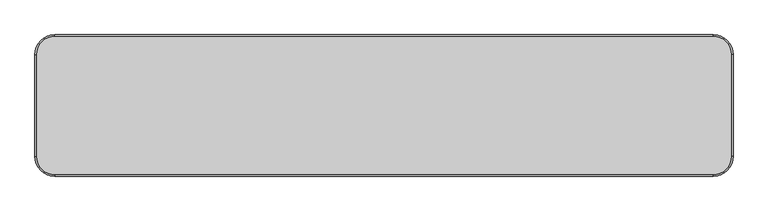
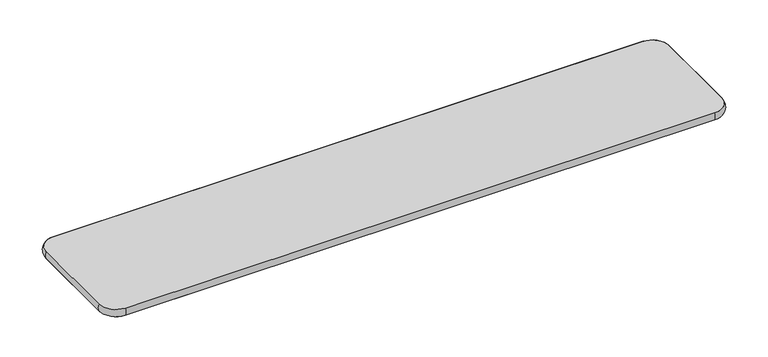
"""IFC4 building model written with IfcOpenShell, lengths in millimetres: furniture geometry, Banco para refeitório : Banco para refeitório 150x30cm cód 40470.2."""

from ifc_helpers import new_model, si_unit, point, frame, frame_2d, origin, place, context, project, spatial, polyline, circle_curve, ellipse_curve, trimmed, segment, composite_curve, outline, extrude, source, transform, mapped, element, save
from ifc_brep_helpers import plane_surface, cylinder_surface, revolved_surface, advanced_brep


def furniture_198ba263(model_context):
    return source(origin(), model_context, "Body", "SolidModel", [
        advanced_brep(
        [(750.0, -110.0, 310.0), (710.0, -150.0, 310.0), (710.0, -150.0, 292.0), (750.0, -110.0, 292.0), (750.0, 110.0, 292.0), (750.0, 110.0, 310.0), (710.0, 150.0, 310.0), (710.0, 150.0, 292.0), (-710.0, 150.0, 292.0), (-710.0, 150.0, 310.0), (-750.0, 110.0, 310.0), (-750.0, 110.0, 292.0), (-750.0, -110.0, 292.0), (-750.0, -110.0, 310.0), (-710.0, -150.0, 310.0), (-710.0, -150.0, 292.0)],
        [
            (0, 1, circle_curve(frame((710.0, -110.0, 310.0), z_axis=(0.0, 0.0, -1.0), x_axis=(0.0, -1.0, 0.0)), 40.0)),
            (1, 2, circle_curve(frame((710.0, -136.6032084, 301.0), z_axis=(1.0, 0.0, 0.0), x_axis=(0.0, 1.0, 0.0)), 16.1392077)),
            (2, 3, circle_curve(frame((710.0, -110.0, 292.0), z_axis=(0.0, 0.0, 1.0), x_axis=(0.0, -1.0, 0.0)), 40.0)),
            (3, 0, circle_curve(frame((736.6032084, -110.0, 301.0), z_axis=(0.0, -1.0, 0.0), x_axis=(-1.0, 0.0, 0.0)), 16.1392077)),
            (2, 1),
            (0, 3),
            (3, 4),
            (4, 5, circle_curve(frame((736.6032084, 110.0, 301.0), z_axis=(0.0, -1.0, 0.0), x_axis=(-1.0, 0.0, 0.0)), 16.1392077)),
            (5, 0),
            (5, 4),
            (6, 5, circle_curve(frame((710.0, 110.0, 310.0), z_axis=(0.0, 0.0, -1.0), x_axis=(1.0, 0.0, 0.0)), 40.0)),
            (4, 7, circle_curve(frame((710.0, 110.0, 292.0), z_axis=(0.0, 0.0, 1.0), x_axis=(1.0, 0.0, 0.0)), 40.0)),
            (7, 6, circle_curve(frame((710.0, 136.6032084, 301.0), z_axis=(1.0, 0.0, 0.0), x_axis=(0.0, -1.0, 0.0)), 16.1392077)),
            (6, 7),
            (7, 8),
            (8, 9, circle_curve(frame((-710.0, 136.6032084, 301.0), z_axis=(1.0, 0.0, 0.0), x_axis=(0.0, -1.0, 0.0)), 16.1392077)),
            (9, 6),
            (9, 8),
            (10, 9, circle_curve(frame((-710.0, 110.0, 310.0), z_axis=(0.0, 0.0, -1.0), x_axis=(0.0, 1.0, 0.0)), 40.0)),
            (8, 11, circle_curve(frame((-710.0, 110.0, 292.0), z_axis=(0.0, 0.0, 1.0), x_axis=(0.0, 1.0, 0.0)), 40.0)),
            (11, 10, circle_curve(frame((-736.6032084, 110.0, 301.0), z_axis=(0.0, 1.0, 0.0), x_axis=(1.0, 0.0, 0.0)), 16.1392077)),
            (10, 11),
            (11, 12),
            (12, 13, circle_curve(frame((-736.6032084, -110.0, 301.0), z_axis=(0.0, 1.0, 0.0), x_axis=(1.0, 0.0, 0.0)), 16.1392077)),
            (13, 10),
            (13, 12),
            (14, 13, circle_curve(frame((-710.0, -110.0, 310.0), z_axis=(0.0, 0.0, -1.0), x_axis=(-1.0, 0.0, 0.0)), 40.0)),
            (12, 15, circle_curve(frame((-710.0, -110.0, 292.0), z_axis=(0.0, 0.0, 1.0), x_axis=(-1.0, 0.0, 0.0)), 40.0)),
            (15, 14, circle_curve(frame((-710.0, -136.6032084, 301.0), z_axis=(-1.0, 0.0, 0.0), x_axis=(0.0, 1.0, 0.0)), 16.1392077)),
            (14, 15),
            (15, 2),
            (1, 14),
        ],
        [
            revolved_surface(trimmed(ellipse_curve(frame((710.0, -136.6032084, 301.0), z_axis=(-1.0, 0.0, 0.0), x_axis=(0.0, 1.0, 0.0)), 16.1392077, 16.1392077), [point((710.0, -150.0, 292.0))], [point((710.0, -150.0, 310.0))], True, "CARTESIAN"), (710.0, -110.0, 310.0), (0.0, 0.0, 1.0)),
            revolved_surface(polyline([(710.0, -150.0, 310.0), (710.0, -150.0, 292.0)]), (710.0, -110.0, 310.0), (0.0, 0.0, 1.0)),
            cylinder_surface(frame((736.6032084, -110.0, 301.0), z_axis=(0.0, -1.0, 0.0), x_axis=(-1.0, 0.0, 0.0)), 16.1392077),
            plane_surface(frame((750.0, -110.0, 310.0), z_axis=(-1.0, 0.0, 0.0), x_axis=(0.0, 1.0, 0.0))),
            revolved_surface(trimmed(ellipse_curve(frame((736.6032084, 110.0, 301.0), z_axis=(0.0, -1.0, 0.0), x_axis=(-1.0, 0.0, 0.0)), 16.1392077, 16.1392077), [point((750.0, 110.0, 292.0))], [point((750.0, 110.0, 310.0))], True, "CARTESIAN"), (710.0, 110.0, 310.0), (0.0, 0.0, 1.0)),
            revolved_surface(polyline([(750.0, 110.0, 310.0), (750.0, 110.0, 292.0)]), (710.0, 110.0, 310.0), (0.0, 0.0, 1.0)),
            cylinder_surface(frame((710.0, 136.6032084, 301.0), z_axis=(1.0, 0.0, 0.0), x_axis=(0.0, -1.0, 0.0)), 16.1392077),
            plane_surface(frame((710.0, 150.0, 310.0), z_axis=(0.0, -1.0, 0.0), x_axis=(-1.0, 0.0, 0.0))),
            revolved_surface(trimmed(ellipse_curve(frame((-710.0, 136.6032084, 301.0), z_axis=(1.0, 0.0, 0.0), x_axis=(0.0, -1.0, 0.0)), 16.1392077, 16.1392077), [point((-710.0, 150.0, 292.0))], [point((-710.0, 150.0, 310.0))], True, "CARTESIAN"), (-710.0, 110.0, 310.0), (0.0, 0.0, 1.0)),
            revolved_surface(polyline([(-710.0, 150.0, 310.0), (-710.0, 150.0, 292.0)]), (-710.0, 110.0, 310.0), (0.0, 0.0, 1.0)),
            cylinder_surface(frame((-736.6032084, 110.0, 301.0), z_axis=(0.0, 1.0, 0.0), x_axis=(1.0, 0.0, 0.0)), 16.1392077),
            plane_surface(frame((-750.0, 110.0, 310.0), z_axis=(1.0, 0.0, 0.0), x_axis=(0.0, -1.0, 0.0))),
            revolved_surface(trimmed(ellipse_curve(frame((-736.6032084, -110.0, 301.0), z_axis=(0.0, 1.0, 0.0), x_axis=(1.0, 0.0, 0.0)), 16.1392077, 16.1392077), [point((-750.0, -110.0, 292.0))], [point((-750.0, -110.0, 310.0))], True, "CARTESIAN"), (-710.0, -110.0, 310.0), (0.0, 0.0, 1.0)),
            revolved_surface(polyline([(-750.0, -110.0, 310.0), (-750.0, -110.0, 292.0)]), (-710.0, -110.0, 310.0), (0.0, 0.0, 1.0)),
            cylinder_surface(frame((-710.0, -136.6032084, 301.0), z_axis=(-1.0, 0.0, 0.0), x_axis=(0.0, 1.0, 0.0)), 16.1392077),
            plane_surface(frame((-710.0, -150.0, 310.0), z_axis=(0.0, 1.0, 0.0), x_axis=(1.0, 0.0, 0.0))),
        ],
        [
            (0, [[1, 2, 3, 4]]),
            (1, [[-3, 5, -1, 6]]),
            (2, [[-4, 7, 8, 9]]),
            (3, [[-6, -9, 10, -7]]),
            (4, [[11, -8, 12, 13]]),
            (5, [[-12, -10, -11, 14]]),
            (6, [[-13, 15, 16, 17]]),
            (7, [[-14, -17, 18, -15]]),
            (8, [[19, -16, 20, 21]]),
            (9, [[-20, -18, -19, 22]]),
            (10, [[-21, 23, 24, 25]]),
            (11, [[-22, -25, 26, -23]]),
            (12, [[27, -24, 28, 29]]),
            (13, [[-28, -26, -27, 30]]),
            (14, [[-29, 31, -2, 32]]),
            (15, [[-30, -32, -5, -31]]),
        ],
    ),
        extrude(outline(composite_curve([segment(trimmed(circle_curve(frame_2d((710.0, 110.0)), 40.0), [point((710.0, 150.0))], [point((750.0, 110.0))], False, "CARTESIAN"), True, "CONTINUOUS"), segment(polyline([(750.0, 110.0), (750.0, -110.0)]), True, "CONTINUOUS"), segment(trimmed(circle_curve(frame_2d((710.0, -110.0)), 40.0), [point((750.0, -110.0))], [point((710.0, -150.0))], False, "CARTESIAN"), True, "CONTINUOUS"), segment(polyline([(710.0, -150.0), (-710.0, -150.0)]), True, "CONTINUOUS"), segment(trimmed(circle_curve(frame_2d((-710.0, -110.0)), 40.0), [point((-710.0, -150.0))], [point((-750.0, -110.0))], False, "CARTESIAN"), True, "CONTINUOUS"), segment(polyline([(-750.0, -110.0), (-750.0, 110.0)]), True, "CONTINUOUS"), segment(trimmed(circle_curve(frame_2d((-710.0, 110.0)), 40.0), [point((-750.0, 110.0))], [point((-710.0, 150.0))], False, "CARTESIAN"), True, "CONTINUOUS"), segment(polyline([(-710.0, 150.0), (710.0, 150.0)]), True, "CONTINUOUS")], self_intersect=False)), frame((0.0, 0.0, 292.0), z_axis=(0.0, 0.0, 1.0), x_axis=(1.0, 0.0, 0.0)), (0.0, 0.0, 1.0), 18.0),
    ])


if __name__ == "__main__":
    model = new_model("IFC4")
    model_context = context("Model", 3, world=origin())
    ifc_project = project(units=[si_unit("LENGTHUNIT", "METRE", prefix="MILLI")], contexts=[model_context])
    site = spatial("IfcSite", under=ifc_project)
    building = spatial("IfcBuilding", under=site)
    placement = place(None, origin())
    furniture_shape = furniture_198ba263(model_context)
    element("IfcFurniture", 1, ObjectType="Banco para refeitório : Banco para refeitório 150x30cm cód 40470.2", at=placement, inside=building, context=model_context, shape_type="MappedRepresentation", body=[
        mapped(furniture_shape, transform((0.0, 0.0, 0.0), x_axis=(1.0, 0.0, 0.0), y_axis=(0.0, 1.0, 0.0), z_axis=(0.0, 0.0, 1.0))),
    ])
    save(model, "model.ifc")
